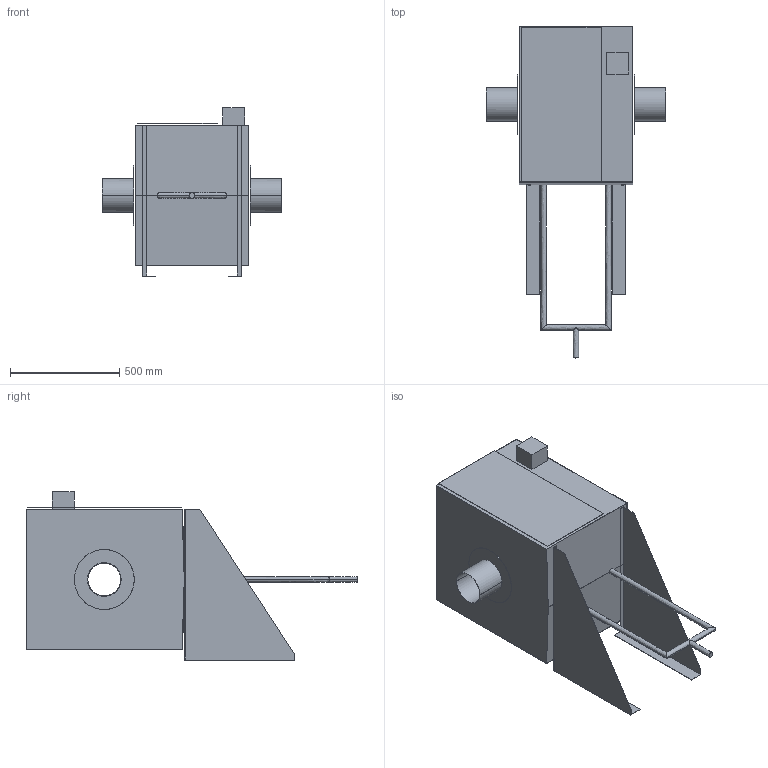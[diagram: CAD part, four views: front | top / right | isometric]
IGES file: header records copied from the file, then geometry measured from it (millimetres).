
Start section:  PTC IGES file: 51788499.igs
Global section: file name: 51788499.igs; native system: Creo Parametric by PTC Inc.; preprocessor: 2021184; author: hrl; organization: Unknown; date: 20220328.103616; units: millimetre
Bounding box: 820 x 1517 x 772 mm (x, y, z)
Surface area: 6676487.2 mm2 (no closed solid volume)
Topology: 0 solids, 0 shells, 80 faces, 366 edges, 366 vertices
Faces by surface type: bspline 56, revolution 24
